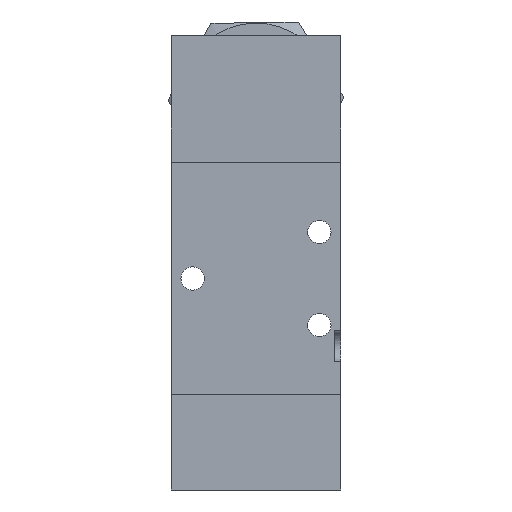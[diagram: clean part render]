
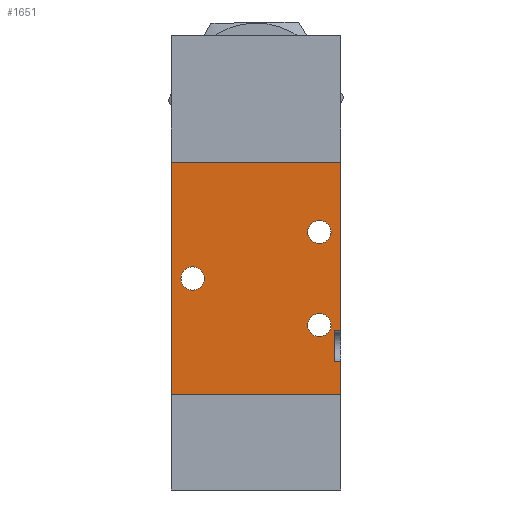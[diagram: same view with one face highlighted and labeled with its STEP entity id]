
A CAD part, left-side view. The second image highlights one B-rep face of the part: STEP entity #1651.
In plain terms, the highlighted planar face has unit normal (-1, 0, 0).
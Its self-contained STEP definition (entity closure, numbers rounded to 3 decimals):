
#1369=CARTESIAN_POINT('',(-14.75,-18.5,-12.375));
#1370=VERTEX_POINT('',#1369);
#1378=CARTESIAN_POINT('',(-14.75,-20.0,-12.375));
#1379=VERTEX_POINT('',#1378);
#1386=CARTESIAN_POINT('',(-14.75,-18.5,-12.375));
#1387=DIRECTION('',(0.0,-1.0,0.0));
#1388=VECTOR('',#1387,1.5);
#1389=LINE('',#1386,#1388);
#1390=EDGE_CURVE('',#1370,#1379,#1389,.T.);
#1400=CARTESIAN_POINT('',(-14.75,-18.5,-19.625));
#1401=VERTEX_POINT('',#1400);
#1408=CARTESIAN_POINT('',(-14.75,-20.0,-19.625));
#1409=VERTEX_POINT('',#1408);
#1410=CARTESIAN_POINT('',(-14.75,-20.0,-19.625));
#1411=DIRECTION('',(0.0,1.0,0.0));
#1412=VECTOR('',#1411,1.5);
#1413=LINE('',#1410,#1412);
#1414=EDGE_CURVE('',#1409,#1401,#1413,.T.);
#1433=CARTESIAN_POINT('',(-14.75,-18.5,-19.625));
#1434=DIRECTION('',(0.0,0.0,1.0));
#1435=VECTOR('',#1434,7.25);
#1436=LINE('',#1433,#1435);
#1437=EDGE_CURVE('',#1401,#1370,#1436,.T.);
#1570=CARTESIAN_POINT('',(-14.75,0.,0.));
#1571=DIRECTION('',(1.0,0.0,0.0));
#1572=DIRECTION('',(0.0,0.0,-1.0));
#1573=AXIS2_PLACEMENT_3D('',#1570,#1571,#1572);
#1574=PLANE('',#1573);
#1575=ORIENTED_EDGE('',*,*,#1414,.T.);
#1576=ORIENTED_EDGE('',*,*,#1437,.T.);
#1577=ORIENTED_EDGE('',*,*,#1390,.T.);
#1578=CARTESIAN_POINT('',(-14.75,-20.0,27.5));
#1579=VERTEX_POINT('',#1578);
#1580=CARTESIAN_POINT('',(-14.75,-20.0,27.5));
#1581=DIRECTION('',(0.0,0.0,-1.0));
#1582=VECTOR('',#1581,39.875);
#1583=LINE('',#1580,#1582);
#1584=EDGE_CURVE('',#1579,#1379,#1583,.T.);
#1585=ORIENTED_EDGE('',*,*,#1584,.F.);
#1586=CARTESIAN_POINT('',(-14.75,20.0,27.5));
#1587=VERTEX_POINT('',#1586);
#1588=CARTESIAN_POINT('',(-14.75,20.0,27.5));
#1589=DIRECTION('',(0.0,-1.0,0.0));
#1590=VECTOR('',#1589,40.0);
#1591=LINE('',#1588,#1590);
#1592=EDGE_CURVE('',#1587,#1579,#1591,.T.);
#1593=ORIENTED_EDGE('',*,*,#1592,.F.);
#1594=CARTESIAN_POINT('',(-14.75,20.0,-27.5));
#1595=VERTEX_POINT('',#1594);
#1596=CARTESIAN_POINT('',(-14.75,20.0,-27.5));
#1597=DIRECTION('',(0.0,0.0,1.0));
#1598=VECTOR('',#1597,55.0);
#1599=LINE('',#1596,#1598);
#1600=EDGE_CURVE('',#1595,#1587,#1599,.T.);
#1601=ORIENTED_EDGE('',*,*,#1600,.F.);
#1602=CARTESIAN_POINT('',(-14.75,-20.0,-27.5));
#1603=VERTEX_POINT('',#1602);
#1604=CARTESIAN_POINT('',(-14.75,-20.0,-27.5));
#1605=DIRECTION('',(0.0,1.0,0.0));
#1606=VECTOR('',#1605,40.0);
#1607=LINE('',#1604,#1606);
#1608=EDGE_CURVE('',#1603,#1595,#1607,.T.);
#1609=ORIENTED_EDGE('',*,*,#1608,.F.);
#1610=CARTESIAN_POINT('',(-14.75,-20.0,-19.625));
#1611=DIRECTION('',(0.0,0.0,-1.0));
#1612=VECTOR('',#1611,7.875);
#1613=LINE('',#1610,#1612);
#1614=EDGE_CURVE('',#1409,#1603,#1613,.T.);
#1615=ORIENTED_EDGE('',*,*,#1614,.F.);
#1616=EDGE_LOOP('',(#1575,#1576,#1577,#1585,#1593,#1601,#1609,#1615));
#1617=FACE_OUTER_BOUND('',#1616,.T.);
#1618=CARTESIAN_POINT('',(-14.75,-12.25,11.0));
#1619=VERTEX_POINT('',#1618);
#1620=CARTESIAN_POINT('',(-14.75,-15.0,11.0));
#1621=DIRECTION('',(1.0,0.0,0.0));
#1622=DIRECTION('',(0.0,-1.0,0.0));
#1623=AXIS2_PLACEMENT_3D('',#1620,#1621,#1622);
#1624=CIRCLE('',#1623,2.75);
#1625=EDGE_CURVE('',#1619,#1619,#1624,.T.);
#1626=ORIENTED_EDGE('',*,*,#1625,.T.);
#1627=EDGE_LOOP('',(#1626));
#1628=FACE_BOUND('',#1627,.T.);
#1629=CARTESIAN_POINT('',(-14.75,-12.25,-11.0));
#1630=VERTEX_POINT('',#1629);
#1631=CARTESIAN_POINT('',(-14.75,-15.,-11.0));
#1632=DIRECTION('',(1.0,0.0,0.0));
#1633=DIRECTION('',(0.0,-1.0,0.0));
#1634=AXIS2_PLACEMENT_3D('',#1631,#1632,#1633);
#1635=CIRCLE('',#1634,2.75);
#1636=EDGE_CURVE('',#1630,#1630,#1635,.T.);
#1637=ORIENTED_EDGE('',*,*,#1636,.T.);
#1638=EDGE_LOOP('',(#1637));
#1639=FACE_BOUND('',#1638,.T.);
#1640=CARTESIAN_POINT('',(-14.75,17.75,0.));
#1641=VERTEX_POINT('',#1640);
#1642=CARTESIAN_POINT('',(-14.75,15.0,0.));
#1643=DIRECTION('',(1.0,0.0,0.0));
#1644=DIRECTION('',(0.0,-1.0,0.0));
#1645=AXIS2_PLACEMENT_3D('',#1642,#1643,#1644);
#1646=CIRCLE('',#1645,2.75);
#1647=EDGE_CURVE('',#1641,#1641,#1646,.T.);
#1648=ORIENTED_EDGE('',*,*,#1647,.T.);
#1649=EDGE_LOOP('',(#1648));
#1650=FACE_BOUND('',#1649,.T.);
#1651=ADVANCED_FACE('',(#1617,#1628,#1639,#1650),#1574,.F.);
